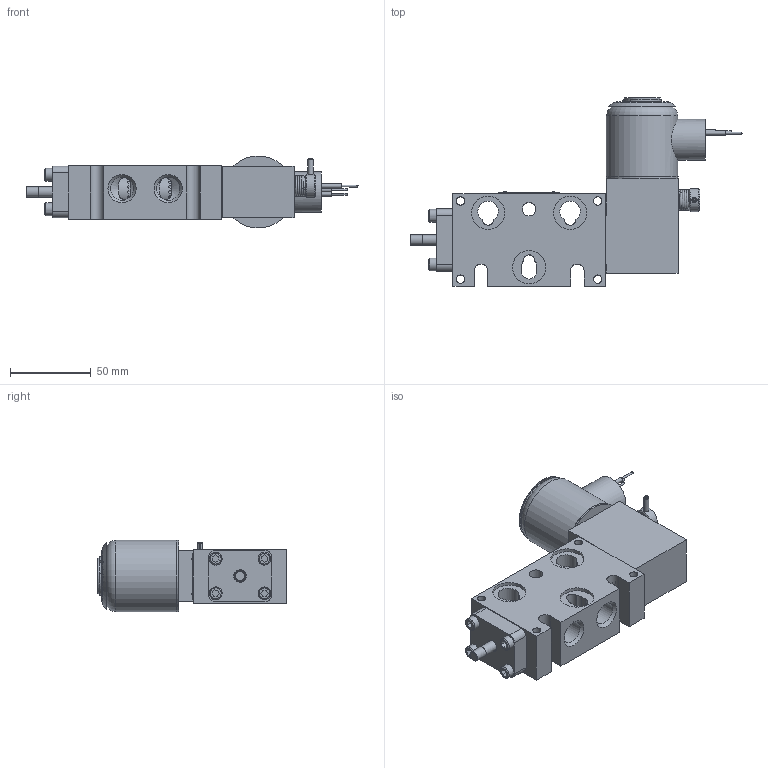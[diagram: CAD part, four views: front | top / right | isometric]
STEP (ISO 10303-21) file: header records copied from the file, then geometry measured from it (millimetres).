
FILE_DESCRIPTION(/* description */ (''),/* implementation_level */ '2;1');
FILE_NAME(/* name */ 'D:\Website New\Valves\Classic\SO\stp\BSO3XONK.stp',/* time_stamp */ '2020-01-18T21:25:35-05:00',/* author */ ('RMcKenna'),/* organization */ (''),/* preprocessor_version */ 'ST-DEVELOPER v17',/* originating_system */ 'Autodesk Inventor 2018',/* authorisation */ '');
FILE_SCHEMA (('AUTOMOTIVE_DESIGN { 1 0 10303 214 3 1 1 }'));
Products named in the file (1): Part41
Bounding box: 205.5 x 116.69 x 44.45 mm (x, y, z)
Volume: 287165.1 mm3; surface area: 111858.6 mm2
Topology: 3 solids, 28 shells, 1225 faces, 3039 edges, 1989 vertices
Faces by surface type: plane 533, cylinder 287, cone 236, torus 103, bspline 63, sphere 3
Full cylindrical faces by diameter (mm): 1.041 x1, 1.168 x3, 1.321 x1, 1.397 x1, 2.07 x2, 2.261 x2, 2.35 x1, 2.381 x1, 2.54 x2, 2.778 x7, 3.048 x3, 3.175 x5, 3.302 x1, 3.683 x8, 4.366 x2, 4.826 x12, 5.105 x4, 5.156 x12, 5.556 x4, 5.639 x1, 6.35 x4, 6.629 x2, 7.671 x1, 7.938 x8, 7.95 x2, 8.153 x1, 8.334 x1, 8.731 x4, 9.144 x1, 9.474 x5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
Entity records: 46457 total; most frequent: CARTESIAN_POINT 16337, DIRECTION 6073, ORIENTED_EDGE 6034, EDGE_CURVE 3017, AXIS2_PLACEMENT_3D 2361, VERTEX_POINT 1989, EDGE_LOOP 1434, LINE 1351
